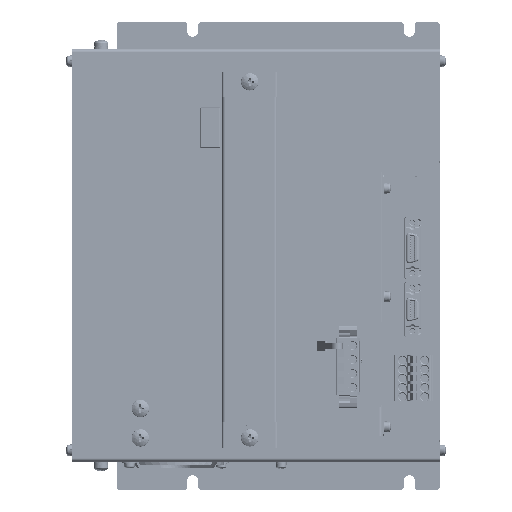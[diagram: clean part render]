
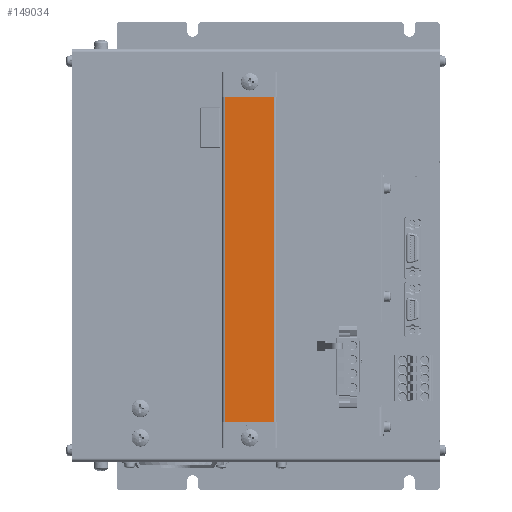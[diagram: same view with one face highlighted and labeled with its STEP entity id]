
A CAD part, top view. The second image highlights one B-rep face of the part: STEP entity #149034.
In plain terms, the highlighted planar face has unit normal (0, 0, 1).
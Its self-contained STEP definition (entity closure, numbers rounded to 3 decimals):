
#16647 = EDGE_CURVE ( 'NONE', #220088, #424195, #384223, .T. ) ;
#71588 = VERTEX_POINT ( 'NONE', #259171 ) ;
#81897 = CARTESIAN_POINT ( 'NONE',  ( 110., 198.5, 26. ) ) ;
#109591 = ORIENTED_EDGE ( 'NONE', *, *, #207412, .T. ) ;
#119099 = EDGE_CURVE ( 'NONE', #71588, #199711, #334985, .T. ) ;
#127198 = LINE ( 'NONE', #352397, #386283 ) ;
#145005 = CARTESIAN_POINT ( 'NONE',  ( 83.2, 21.5, 26. ) ) ;
#149034 = ADVANCED_FACE ( 'NONE', ( #168175 ), #401896, .T. ) ;
#150017 = ORIENTED_EDGE ( 'NONE', *, *, #16647, .T. ) ;
#155315 = VECTOR ( 'NONE', #433266, 1000. ) ;
#165566 = CARTESIAN_POINT ( 'NONE',  ( 83.2, 198.5, 26. ) ) ;
#168175 = FACE_OUTER_BOUND ( 'NONE', #176930, .T. ) ;
#176930 = EDGE_LOOP ( 'NONE', ( #424148, #289059, #150017, #109591 ) ) ;
#186045 = DIRECTION ( 'NONE',  ( 0., -1., 0. ) ) ;
#199711 = VERTEX_POINT ( 'NONE', #81897 ) ;
#199909 = CARTESIAN_POINT ( 'NONE',  ( 83.2, 198.5, 26. ) ) ;
#207412 = EDGE_CURVE ( 'NONE', #424195, #71588, #127198, .T. ) ;
#220088 = VERTEX_POINT ( 'NONE', #199909 ) ;
#243177 = AXIS2_PLACEMENT_3D ( 'NONE', #165566, #435943, #403336 ) ;
#259171 = CARTESIAN_POINT ( 'NONE',  ( 110., 21.5, 26. ) ) ;
#289059 = ORIENTED_EDGE ( 'NONE', *, *, #394028, .T. ) ;
#302441 = LINE ( 'NONE', #406519, #408518 ) ;
#315423 = VECTOR ( 'NONE', #186045, 1000. ) ;
#334985 = LINE ( 'NONE', #365197, #155315 ) ;
#348063 = DIRECTION ( 'NONE',  ( 1., 0., 0. ) ) ;
#352397 = CARTESIAN_POINT ( 'NONE',  ( 83.2, 21.5, 26. ) ) ;
#365197 = CARTESIAN_POINT ( 'NONE',  ( 110., 198.5, 26. ) ) ;
#384223 = LINE ( 'NONE', #428168, #315423 ) ;
#386283 = VECTOR ( 'NONE', #348063, 1000. ) ;
#394028 = EDGE_CURVE ( 'NONE', #199711, #220088, #302441, .T. ) ;
#401896 = PLANE ( 'NONE',  #243177 ) ;
#403336 = DIRECTION ( 'NONE',  ( -1., 0., 0. ) ) ;
#403614 = DIRECTION ( 'NONE',  ( -1., 0., 0. ) ) ;
#406519 = CARTESIAN_POINT ( 'NONE',  ( 83.2, 198.5, 26. ) ) ;
#408518 = VECTOR ( 'NONE', #403614, 1000. ) ;
#424148 = ORIENTED_EDGE ( 'NONE', *, *, #119099, .T. ) ;
#424195 = VERTEX_POINT ( 'NONE', #145005 ) ;
#428168 = CARTESIAN_POINT ( 'NONE',  ( 83.2, 198.5, 26. ) ) ;
#433266 = DIRECTION ( 'NONE',  ( 0., 1., 0. ) ) ;
#435943 = DIRECTION ( 'NONE',  ( 0., 0., 1. ) ) ;
